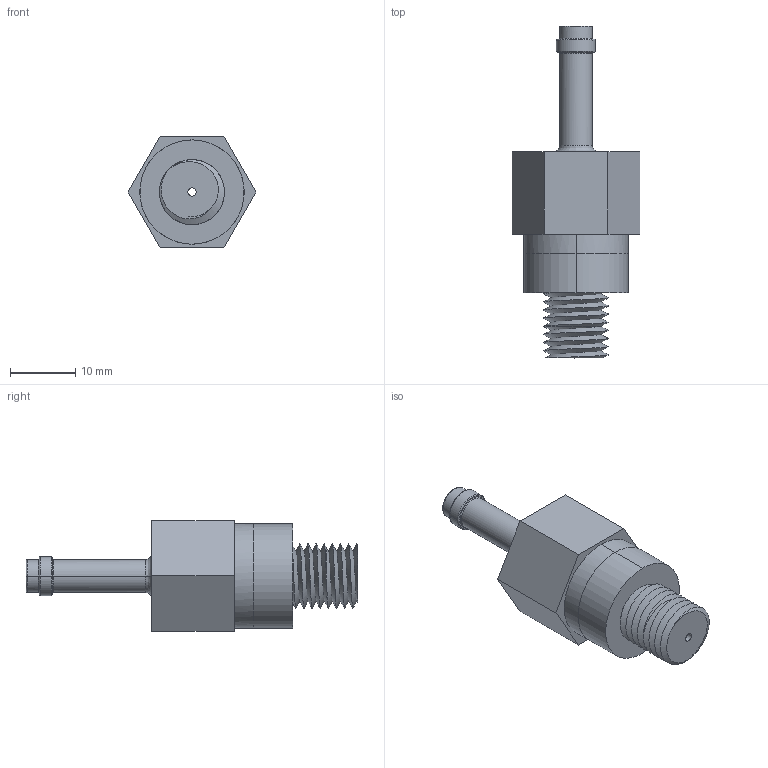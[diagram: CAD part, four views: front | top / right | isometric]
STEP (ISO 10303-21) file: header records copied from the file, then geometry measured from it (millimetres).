
FILE_DESCRIPTION(/* description */ (''),/* implementation_level */ '2;1');
FILE_NAME(/* name */ 'p-port-press-tap',/* time_stamp */ '2009-05-16T06:33:30-07:00',/* author */ (''),/* organization */ (''),/* preprocessor_version */ 'ST-DEVELOPER v8',/* originating_system */ '',/* authorisation */ '');
FILE_SCHEMA (('CONFIG_CONTROL_DESIGN'));
Length unit declared in the file: millimetre
Products named in the file (1): 1
Bounding box: 19.63 x 51 x 17 mm (x, y, z)
Volume: 5533 mm3; surface area: 3157.9 mm2
Topology: 1 solids, 1 shells, 42 faces, 88 edges, 54 vertices
Faces by surface type: bspline 42
Entity records: 3419 total; most frequent: CARTESIAN_POINT 2795, ORIENTED_EDGE 174, EDGE_CURVE 87, B_SPLINE_CURVE_WITH_KNOTS 60, VERTEX_POINT 53, EDGE_LOOP 50, ADVANCED_FACE 42, FACE_OUTER_BOUND 42
